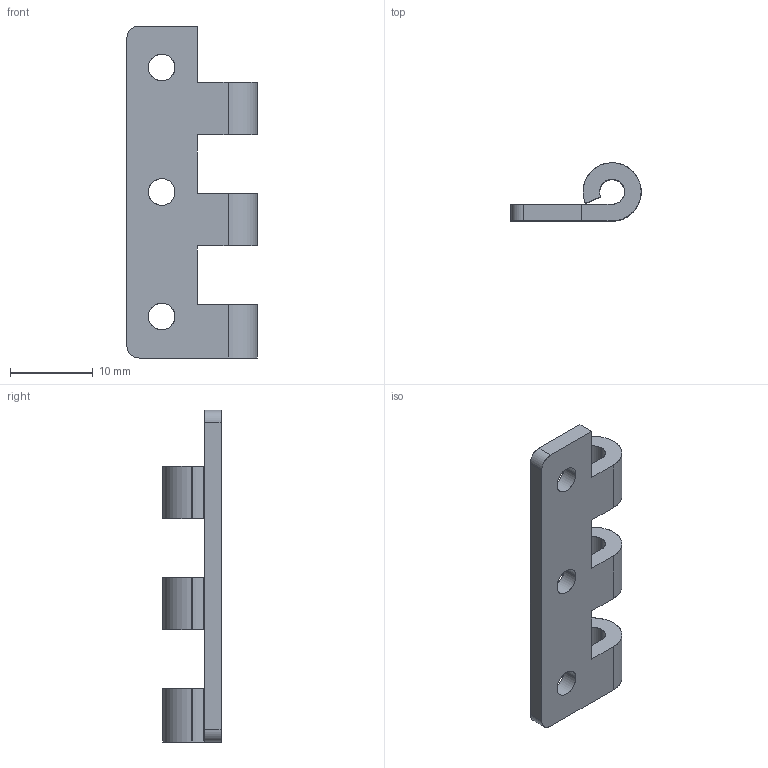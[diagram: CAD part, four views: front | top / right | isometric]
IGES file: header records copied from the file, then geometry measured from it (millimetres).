
Start section: SolidWorks IGES file using analytic representation for surfaces
Global section: file name: Z:\Mes documents\ATAO iges\Gamme CL\CL 420\420.010.00.IGS; native system: SolidWorks 2008; preprocessor: SolidWorks 2008; author: cbrechard; date: 110628.182748; units: millimetre
Bounding box: 15.7 x 7 x 40 mm (x, y, z)
Surface area: 1707 mm2 (no closed solid volume)
Topology: 0 solids, 0 shells, 42 faces, 724 edges, 724 vertices
Faces by surface type: revolution 26, bspline 16
